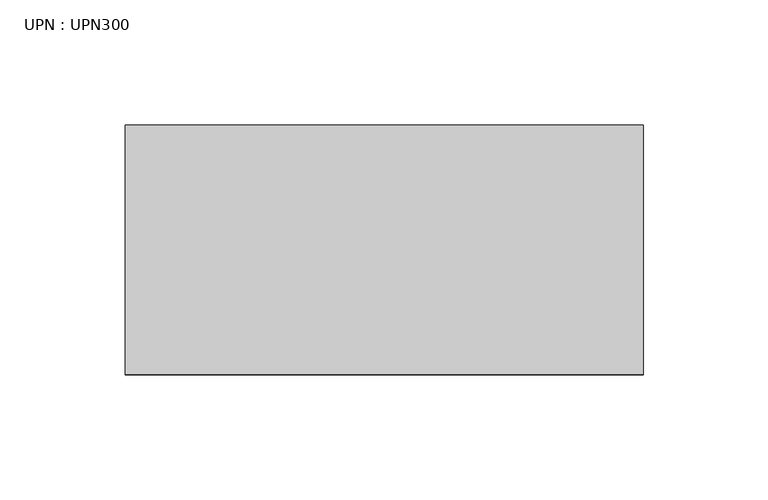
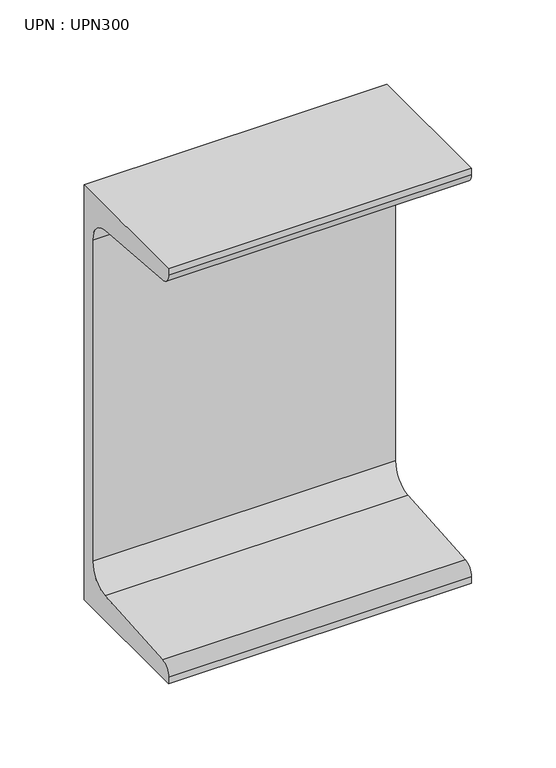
"""IFC4 building model written with IfcOpenShell, lengths in millimetres: beam geometry, UPN : UPN300."""

from ifc_helpers import new_model, si_unit, point, frame, frame_2d, origin, place, context, project, spatial, polyline, circle_curve, trimmed, segment, composite_curve, outline, extrude, source, transform, mapped, element, save


def upn_upn300_e3bfa8e2(model_context):
    return source(origin(), model_context, "Body", "SweptSolid", [
        extrude(outline(composite_curve([segment(polyline([(27.0, 150.0), (27.0, -150.0), (-73.0, -150.0), (-73.0, -145.3826224)]), True, "CONTINUOUS"), segment(trimmed(circle_curve(frame_2d((-65.0, -145.3826224)), 8.0), [point((-73.0, -145.3826224))], [point((-65.637416, -137.4080566))], False, "CARTESIAN"), True, "CONTINUOUS"), segment(polyline([(-65.637416, -137.4080566), (2.274832, -131.9797543)]), True, "CONTINUOUS"), segment(trimmed(circle_curve(frame_2d((1.0, -116.0306225)), 16.0), [point((2.274832, -131.9797543))], [point((17.0, -116.0306225))], True, "CARTESIAN"), True, "CONTINUOUS"), segment(polyline([(17.0, -116.0306225), (17.0, 116.0306225)]), True, "CONTINUOUS"), segment(trimmed(circle_curve(frame_2d((1.0, 116.0306225)), 16.0), [point((17.0, 116.0306225))], [point((2.274832, 131.9797543))], True, "CARTESIAN"), True, "CONTINUOUS"), segment(polyline([(2.274832, 131.9797543), (-65.637416, 137.4080566)]), True, "CONTINUOUS"), segment(trimmed(circle_curve(frame_2d((-65.0, 145.3826224)), 8.0), [point((-65.637416, 137.4080566))], [point((-73.0, 145.3826224))], False, "CARTESIAN"), True, "CONTINUOUS"), segment(polyline([(-73.0, 145.3826224), (-73.0, 150.0), (27.0, 150.0)]), True, "CONTINUOUS")], self_intersect=False)), frame((-88.35, 0.0, 0.0), z_axis=(1.0, 0.0, 0.0), x_axis=(0.0, 1.0, 0.0)), (0.0, 0.0, 1.0), 207.2),
    ])


if __name__ == "__main__":
    model = new_model("IFC4")
    model_context = context("Model", 3, world=origin())
    ifc_project = project(units=[si_unit("LENGTHUNIT", "METRE", prefix="MILLI")], contexts=[model_context])
    site = spatial("IfcSite", under=ifc_project)
    building = spatial("IfcBuilding", under=site)
    placement = place(None, origin())
    upn_upn300_shape = upn_upn300_e3bfa8e2(model_context)
    element("IfcBeam", 1, ObjectType="UPN : UPN300", at=placement, inside=building, context=model_context, shape_type="MappedRepresentation", body=[
        mapped(upn_upn300_shape, transform((0.0, 0.0, 0.0), x_axis=(1.0, 0.0, 0.0), y_axis=(0.0, 1.0, 0.0), z_axis=(0.0, 0.0, 1.0))),
    ])
    save(model, "model.ifc")
